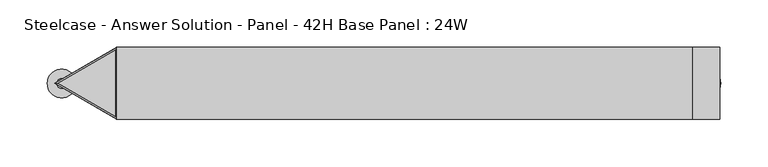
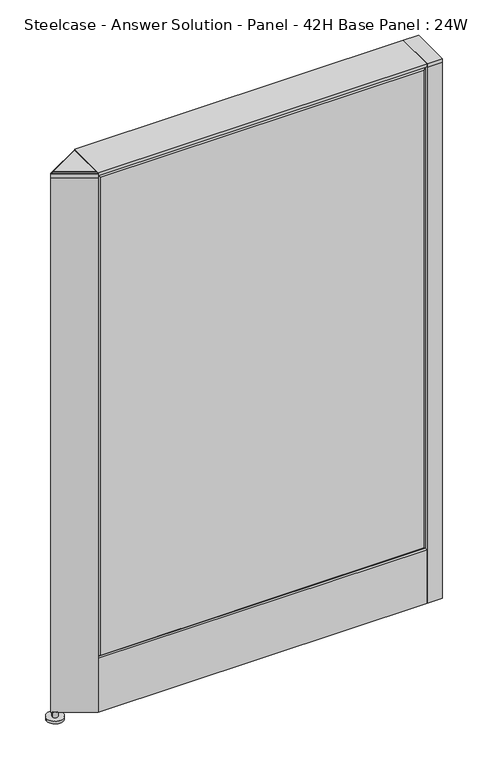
"""IFC4 building model written with IfcOpenShell, lengths in millimetres: furniture geometry, Steelcase - Answer Solution - Panel - 42H Base Panel : 24W."""

from ifc_helpers import new_model, si_unit, point, frame, frame_2d, origin, place, context, project, spatial, polyline, circle_curve, ellipse_curve, trimmed, segment, composite_curve, outline, extrude, faceted_brep, source, transform, mapped, element, save
from ifc_brep_helpers import plane_surface, cylinder_surface, advanced_brep


def steelcase_answer_solution_panel_42h_base_panel_24w_6d0c9ae2(model_context):
    return source(origin(), model_context, "Body", "SolidModel", [
        extrude(outline(composite_curve([segment(trimmed(circle_curve(frame_2d((319.024, -0.0039657)), 5.08), [point((324.104, -0.0039657))], [point((313.944, -0.0039657))], False, "CARTESIAN"), True, "CONTINUOUS"), segment(trimmed(circle_curve(frame_2d((319.024, -0.0039657)), 5.08), [point((313.944, -0.0039657))], [point((324.104, -0.0039657))], False, "CARTESIAN"), True, "CONTINUOUS")], self_intersect=False)), frame((0.0, 0.0, 5.0799671), z_axis=(0.0, 0.0, 1.0), x_axis=(1.0, 0.0, 0.0)), (0.0, 0.0, 1.0), 10.414),
        extrude(outline(composite_curve([segment(trimmed(circle_curve(frame_2d((319.024, -0.0039657)), 15.24), [point((334.264, -0.0039657))], [point((303.784, -0.0039657))], False, "CARTESIAN"), True, "CONTINUOUS"), segment(trimmed(circle_curve(frame_2d((319.024, -0.0039657)), 15.24), [point((303.784, -0.0039657))], [point((334.264, -0.0039657))], False, "CARTESIAN"), True, "CONTINUOUS")], self_intersect=False)), frame((0.0, 0.0, -3.29e-05), z_axis=(0.0, 0.0, 1.0), x_axis=(1.0, 0.0, 0.0)), (0.0, 0.0, 1.0), 5.08),
        extrude(outline(polyline([(333.375, -38.1039851), (304.8, -38.1039851), (304.8, 38.0960149), (333.375, 38.0960149), (333.375, -38.1039851)])), frame((0.0, 0.0, 1065.8348), z_axis=(0.0, 0.0, 1.0), x_axis=(1.0, 0.0, 0.0)), (0.0, 0.0, 1.0), 7.3151671),
        extrude(outline(polyline([(333.375, -38.1039851), (304.8, -38.1039851), (304.8, 38.0960149), (333.375, 38.0960149), (333.375, -38.1039851)])), frame((0.0, 0.0, 15.4939671), z_axis=(0.0, 0.0, 1.0), x_axis=(1.0, 0.0, 0.0)), (0.0, 0.0, 1.0), 1050.3408329),
        extrude(outline(composite_curve([segment(trimmed(circle_curve(frame_2d((-363.22, -0.0039657)), 5.08), [point((-368.3, -0.0039657))], [point((-358.14, -0.0039657))], False, "CARTESIAN"), True, "CONTINUOUS"), segment(trimmed(circle_curve(frame_2d((-363.22, -0.0039657)), 5.08), [point((-358.14, -0.0039657))], [point((-368.3, -0.0039657))], False, "CARTESIAN"), True, "CONTINUOUS")], self_intersect=False)), frame((0.0, 0.0, 5.0799671), z_axis=(0.0, 0.0, 1.0), x_axis=(1.0, 0.0, 0.0)), (0.0, 0.0, 1.0), 10.414),
        extrude(outline(composite_curve([segment(trimmed(circle_curve(frame_2d((-363.22, -0.0039657)), 15.24), [point((-378.46, -0.0039657))], [point((-347.98, -0.0039657))], False, "CARTESIAN"), True, "CONTINUOUS"), segment(trimmed(circle_curve(frame_2d((-363.22, -0.0039657)), 15.24), [point((-347.98, -0.0039657))], [point((-378.46, -0.0039657))], False, "CARTESIAN"), True, "CONTINUOUS")], self_intersect=False)), frame((0.0, 0.0, -3.29e-05), z_axis=(0.0, 0.0, 1.0), x_axis=(1.0, 0.0, 0.0)), (0.0, 0.0, 1.0), 5.08),
        extrude(outline(polyline([(-366.9342999, 0.0350529), (-306.676658, 34.82482), (-306.676658, -34.7718495), (-366.9342999, 0.0350529)])), frame((0.0, 0.0, 1071.2704), z_axis=(0.0, 0.0, 1.0), x_axis=(1.0, 0.0, 0.0)), (0.0, 0.0, 1.0), 1.8795671),
        extrude(outline(polyline([(-304.7716604, -38.072219), (-370.7435962, 0.035459), (-304.7716604, 38.1243768), (-304.7716604, -38.072219)])), frame((0.0, 0.0, 1062.9899671), z_axis=(0.0, 0.0, 1.0), x_axis=(1.0, 0.0, 0.0)), (0.0, 0.0, 1.0), 8.2804329),
        advanced_brep(
        [(-306.6766603, 34.82482, 1073.1499671), (-304.7718302, 38.1240827, 1071.2704), (-370.7432567, 0.035459, 1071.2704), (-366.9342999, 0.0350529, 1073.1499671), (-306.6766603, 34.82482, 1071.2704), (-366.9342999, 0.0350529, 1071.2704), (-304.7718277, -38.0719249, 1071.2704), (-306.676658, -34.7718495, 1073.1499671), (-306.676658, -34.7718495, 1071.2704)],
        [
            (0, 1, ellipse_curve(frame((-306.6766603, 34.82482, 1071.2449671), z_axis=(-0.8660254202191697, 0.49999997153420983, 0.0), x_axis=(0.4999999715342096, 0.8660254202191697, 0.0)), 3.81, 1.905)),
            (1, 2),
            (2, 3, ellipse_curve(frame((-366.9342999, 0.0350529, 1071.2449671), z_axis=(0.00010661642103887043, 0.9999999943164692, 0.0), x_axis=(0.9999999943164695, -0.00010661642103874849, 0.0)), 3.8092964, 1.905)),
            (3, 0),
            (4, 0),
            (3, 5),
            (5, 4),
            (2, 6),
            (6, 7, ellipse_curve(frame((-306.676658, -34.7718495, 1071.2449671), z_axis=(-0.8660787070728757, -0.49990766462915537, 0.0), x_axis=(-0.4999076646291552, 0.8660787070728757, 0.0)), 3.8107039, 1.905)),
            (7, 3),
            (7, 8),
            (8, 5),
            (1, 6),
            (8, 4),
            (0, 7),
        ],
        [
            cylinder_surface(frame((-306.6120399, 34.8621286, 1071.2449671), z_axis=(0.8660253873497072, 0.5000000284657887, 0.0), x_axis=(0.5000000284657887, -0.8660253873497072, 0.0)), 1.905),
            plane_surface(frame((-306.6766603, 34.82482, 1073.1499671), z_axis=(0.5000000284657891, -0.866025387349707, 0.0), x_axis=(-0.866025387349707, -0.5000000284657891, 0.0))),
            cylinder_surface(frame((-366.9988965, 0.0723661, 1071.2449671), z_axis=(-0.8659187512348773, 0.5001846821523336, 0.0), x_axis=(0.5001846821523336, 0.8659187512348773, 0.0)), 1.905),
            plane_surface(frame((-366.9342999, 0.0350529, 1073.1499671), z_axis=(0.5001846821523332, 0.8659187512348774, 0.0), x_axis=(0.8659187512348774, -0.5001846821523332, 0.0))),
            plane_surface(frame((-306.676658, -34.7718495, 1071.2704), z_axis=(0.0, 0.0, -1.0000000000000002), x_axis=(-3.2869464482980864e-08, 0.9999999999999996, 0.0))),
            cylinder_surface(frame((-306.676658, -34.8464851, 1071.2449671), z_axis=(3.286946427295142e-08, -0.9999999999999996, 0.0), x_axis=(-0.9999999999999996, -3.286946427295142e-08, 0.0)), 1.905),
            plane_surface(frame((-306.676658, -34.7718495, 1073.1499671), z_axis=(-0.9999999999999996, -3.2869464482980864e-08, 0.0), x_axis=(-3.2869464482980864e-08, 0.9999999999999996, 0.0))),
        ],
        [
            (0, [[1, 2, 3, 4]]),
            (1, [[5, -4, 6, 7]]),
            (2, [[-3, 8, 9, 10]]),
            (3, [[-6, -10, 11, 12]]),
            (4, [[13, -8, -2], [-7, -12, 14]]),
            (5, [[-9, -13, -1, 15]]),
            (6, [[-11, -15, -5, -14]]),
        ],
    ),
        extrude(outline(polyline([(-304.7716604, 38.1243768), (-304.7716604, -38.0756232), (-370.7633991, 0.0254214), (-304.7716604, 38.1243768)])), frame((0.0, 0.0, 15.4939671), z_axis=(0.0, 0.0, 1.0), x_axis=(1.0, 0.0, 0.0)), (0.0, 0.0, 1.0), 1047.496),
        faceted_brep([(-299.974, -38.1635011, 1061.974), (-299.974, -38.1635011, 125.476), (299.974, -38.1635011, 125.476), (299.974, -38.1635011, 1061.974), (-304.8, -33.3375011, 1066.8), (304.8, -33.3375011, 1066.8), (304.8, -33.3375011, 120.65), (-304.8, -33.3375011, 120.65)], [[[0, 1, 2, 3]], [[4, 5, 6, 7]], [[4, 0, 3, 5]], [[5, 3, 2, 6]], [[6, 2, 1, 7]], [[7, 1, 0, 4]]]),
        faceted_brep([(299.974, 38.1635011, 1061.974), (299.974, 38.1635011, 125.476), (-299.974, 38.1635011, 125.476), (-299.974, 38.1635011, 1061.974), (304.8, 33.3375011, 1066.8), (-304.8, 33.3375011, 1066.8), (-304.8, 33.3375011, 120.65), (304.8, 33.3375011, 120.65)], [[[0, 1, 2, 3]], [[4, 5, 6, 7]], [[4, 0, 3, 5]], [[5, 3, 2, 6]], [[6, 2, 1, 7]], [[7, 1, 0, 4]]]),
        extrude(outline(polyline([(304.8, -38.1000194), (-304.8, -38.1000194), (-304.8, 38.1000194), (304.8, 38.1000194), (304.8, -38.1000194)])), frame((0.0, 0.0, 1066.8), z_axis=(0.0, 0.0, 1.0), x_axis=(1.0, 0.0, 0.0)), (0.0, 0.0, 1.0), 6.35),
        extrude(outline(polyline([(-25.4000011, 119.8575157), (-37.3075215, 119.8575157), (-37.3075215, 15.494), (-38.1000194, 15.494), (-38.1000194, 120.65), (-25.4000011, 120.65), (-25.4000011, 119.8575157)])), frame((-304.8, 0.0, 0.0), z_axis=(1.0, 0.0, 0.0), x_axis=(0.0, 1.0, 0.0)), (0.0, 0.0, 1.0), 609.6),
        extrude(outline(polyline([(25.4000011, 119.8575157), (25.4000011, 120.65), (38.1000194, 120.65), (38.1000194, 15.494), (37.3075215, 15.494), (37.3075215, 119.8575157), (25.4000011, 119.8575157)])), frame((-304.8, 0.0, 0.0), z_axis=(1.0, 0.0, 0.0), x_axis=(0.0, 1.0, 0.0)), (0.0, 0.0, 1.0), 609.6),
    ])


if __name__ == "__main__":
    model = new_model("IFC4")
    model_context = context("Model", 3, world=origin())
    ifc_project = project(units=[si_unit("LENGTHUNIT", "METRE", prefix="MILLI")], contexts=[model_context])
    site = spatial("IfcSite", under=ifc_project)
    building = spatial("IfcBuilding", under=site)
    placement = place(None, origin())
    steelcase_answer_solution_panel_42h_base_panel_24w_shape = steelcase_answer_solution_panel_42h_base_panel_24w_6d0c9ae2(model_context)
    element("IfcFurniture", 1, ObjectType="Steelcase - Answer Solution - Panel - 42H Base Panel : 24W", at=placement, inside=building, context=model_context, shape_type="MappedRepresentation", body=[
        mapped(steelcase_answer_solution_panel_42h_base_panel_24w_shape, transform((0.0, 0.0, 0.0), x_axis=(1.0, 0.0, 0.0), y_axis=(0.0, 1.0, 0.0), z_axis=(0.0, 0.0, 1.0))),
    ])
    save(model, "model.ifc")
